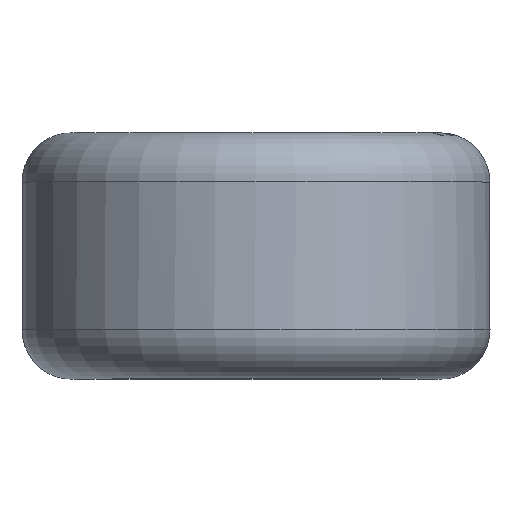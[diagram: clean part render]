
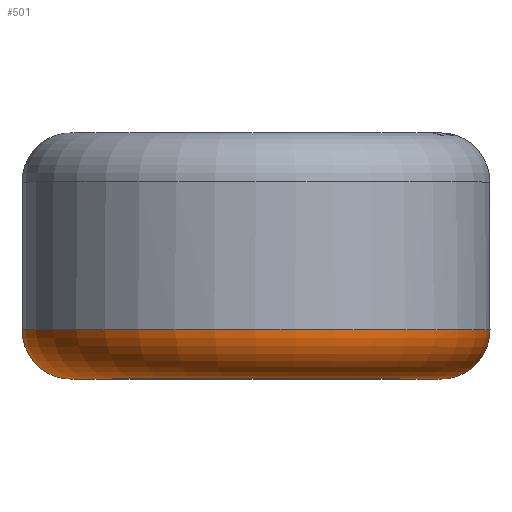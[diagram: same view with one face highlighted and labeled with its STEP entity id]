
A CAD part, top view. The second image highlights one B-rep face of the part: STEP entity #501.
In plain terms, the highlighted toroidal (fillet/blend) face has major radius 3.75 mm and minor radius 1 mm.
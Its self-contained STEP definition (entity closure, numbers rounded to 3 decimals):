
#82=FACE_OUTER_BOUND('',#112,.T.);
#112=EDGE_LOOP('',(#413,#414,#415,#416,#417,#418,#419,#420));
#151=CIRCLE('',#570,3.75);
#152=CIRCLE('',#571,1.);
#153=CIRCLE('',#572,4.75);
#154=CIRCLE('',#573,4.75);
#155=CIRCLE('',#574,4.75);
#156=CIRCLE('',#575,3.75);
#192=B_SPLINE_CURVE_WITH_KNOTS('',3,(#1765,#1766,#1767,#1768),
 .UNSPECIFIED.,.F.,.F.,(4,4),(-0.046,0.),.UNSPECIFIED.);
#225=VERTEX_POINT('',#1547);
#232=VERTEX_POINT('',#1698);
#235=VERTEX_POINT('',#2038);
#236=VERTEX_POINT('',#2039);
#237=VERTEX_POINT('',#2041);
#238=VERTEX_POINT('',#2044);
#297=EDGE_CURVE('',#225,#232,#192,.T.);
#301=EDGE_CURVE('',#235,#236,#151,.T.);
#302=EDGE_CURVE('',#236,#237,#152,.T.);
#303=EDGE_CURVE('',#237,#232,#153,.T.);
#304=EDGE_CURVE('',#225,#238,#154,.T.);
#305=EDGE_CURVE('',#238,#237,#155,.T.);
#306=EDGE_CURVE('',#236,#235,#156,.T.);
#413=ORIENTED_EDGE('',*,*,#301,.T.);
#414=ORIENTED_EDGE('',*,*,#302,.T.);
#415=ORIENTED_EDGE('',*,*,#303,.T.);
#416=ORIENTED_EDGE('',*,*,#297,.F.);
#417=ORIENTED_EDGE('',*,*,#304,.T.);
#418=ORIENTED_EDGE('',*,*,#305,.T.);
#419=ORIENTED_EDGE('',*,*,#302,.F.);
#420=ORIENTED_EDGE('',*,*,#306,.T.);
#483=TOROIDAL_SURFACE('',#569,3.75,1.);
#501=ADVANCED_FACE('',(#82),#483,.T.);
#569=AXIS2_PLACEMENT_3D('',#2037,#674,#675);
#570=AXIS2_PLACEMENT_3D('',#2040,#676,#677);
#571=AXIS2_PLACEMENT_3D('',#2042,#678,#679);
#572=AXIS2_PLACEMENT_3D('',#2043,#680,#681);
#573=AXIS2_PLACEMENT_3D('',#2045,#682,#683);
#574=AXIS2_PLACEMENT_3D('',#2046,#684,#685);
#575=AXIS2_PLACEMENT_3D('',#2047,#686,#687);
#674=DIRECTION('center_axis',(0.,-1.,0.));
#675=DIRECTION('ref_axis',(0.,0.,1.));
#676=DIRECTION('center_axis',(0.,1.,0.));
#677=DIRECTION('ref_axis',(-1.,0.,0.));
#678=DIRECTION('center_axis',(1.,0.,0.));
#679=DIRECTION('ref_axis',(0.,0.,-1.));
#680=DIRECTION('center_axis',(0.,-1.,0.));
#681=DIRECTION('ref_axis',(-1.,0.,0.));
#682=DIRECTION('center_axis',(0.,-1.,0.));
#683=DIRECTION('ref_axis',(-1.,0.,0.));
#684=DIRECTION('center_axis',(0.,-1.,0.));
#685=DIRECTION('ref_axis',(-1.,0.,0.));
#686=DIRECTION('center_axis',(0.,1.,0.));
#687=DIRECTION('ref_axis',(-1.,0.,0.));
#1547=CARTESIAN_POINT('',(2.437,-1.5,-4.077));
#1698=CARTESIAN_POINT('',(2.061,-1.5,-4.28));
#1765=CARTESIAN_POINT('Ctrl Pts',(2.437,-1.5,-4.077));
#1766=CARTESIAN_POINT('Ctrl Pts',(2.319,-1.536,-4.148));
#1767=CARTESIAN_POINT('Ctrl Pts',(2.185,-1.534,-4.22));
#1768=CARTESIAN_POINT('Ctrl Pts',(2.061,-1.5,-4.28));
#2037=CARTESIAN_POINT('Origin',(0.,-1.5,0.));
#2038=CARTESIAN_POINT('',(3.75,-2.5,0.));
#2039=CARTESIAN_POINT('',(0.,-2.5,-3.75));
#2040=CARTESIAN_POINT('Origin',(0.,-2.5,0.));
#2041=CARTESIAN_POINT('',(0.,-1.5,-4.75));
#2042=CARTESIAN_POINT('Origin',(0.,-1.5,-3.75));
#2043=CARTESIAN_POINT('Origin',(0.,-1.5,0.));
#2044=CARTESIAN_POINT('',(-4.75,-1.5,0.));
#2045=CARTESIAN_POINT('Origin',(0.,-1.5,0.));
#2046=CARTESIAN_POINT('Origin',(0.,-1.5,0.));
#2047=CARTESIAN_POINT('Origin',(0.,-2.5,0.));
